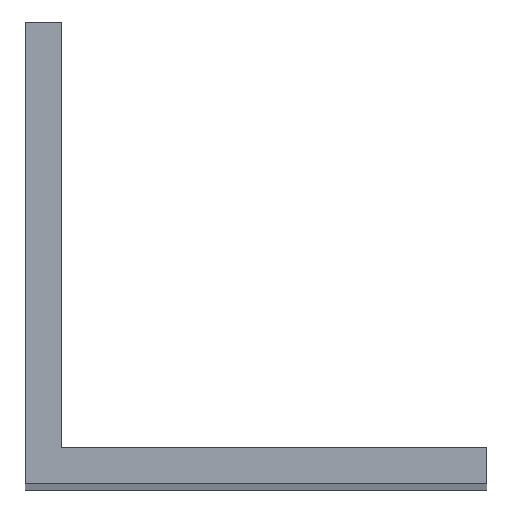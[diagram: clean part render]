
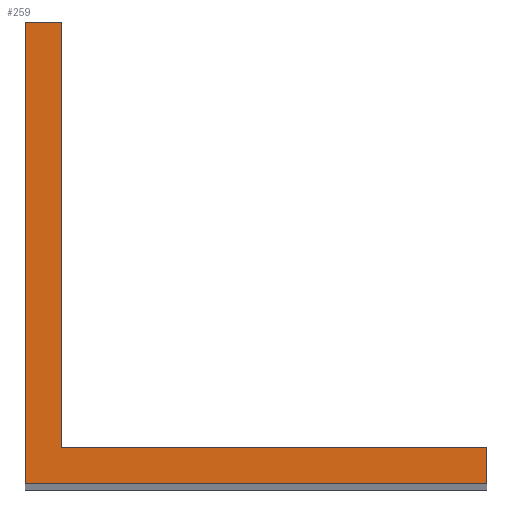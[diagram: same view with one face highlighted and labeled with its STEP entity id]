
A CAD part, top view. The second image highlights one B-rep face of the part: STEP entity #259.
In plain terms, the highlighted planar face has unit normal (0, 0, 1).
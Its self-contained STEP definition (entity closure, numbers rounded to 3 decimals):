
#6 = CARTESIAN_POINT ( 'NONE',  ( 0., 38., 150. ) ) ;
#10 = EDGE_CURVE ( 'NONE', #142, #25, #301, .T. ) ;
#20 = LINE ( 'NONE', #168, #188 ) ;
#23 = VECTOR ( 'NONE', #205, 1000. ) ;
#25 = VERTEX_POINT ( 'NONE', #28 ) ;
#28 = CARTESIAN_POINT ( 'NONE',  ( 3., 3., 150. ) ) ;
#32 = EDGE_LOOP ( 'NONE', ( #275, #83, #109, #49, #101, #151 ) ) ;
#38 = VECTOR ( 'NONE', #39, 1000. ) ;
#39 = DIRECTION ( 'NONE',  ( 0., 1., 0. ) ) ;
#43 = EDGE_CURVE ( 'NONE', #268, #284, #20, .T. ) ;
#44 = VECTOR ( 'NONE', #155, 1000. ) ;
#49 = ORIENTED_EDGE ( 'NONE', *, *, #68, .T. ) ;
#54 = LINE ( 'NONE', #176, #38 ) ;
#55 = VERTEX_POINT ( 'NONE', #86 ) ;
#62 = VECTOR ( 'NONE', #247, 1000. ) ;
#63 = DIRECTION ( 'NONE',  ( -1., 0., 0. ) ) ;
#66 = VERTEX_POINT ( 'NONE', #128 ) ;
#68 = EDGE_CURVE ( 'NONE', #25, #55, #197, .T. ) ;
#83 = ORIENTED_EDGE ( 'NONE', *, *, #192, .T. ) ;
#86 = CARTESIAN_POINT ( 'NONE',  ( 3., 38., 150. ) ) ;
#89 = CARTESIAN_POINT ( 'NONE',  ( 0., 0., 150. ) ) ;
#92 = EDGE_CURVE ( 'NONE', #284, #66, #262, .T. ) ;
#101 = ORIENTED_EDGE ( 'NONE', *, *, #281, .T. ) ;
#109 = ORIENTED_EDGE ( 'NONE', *, *, #10, .T. ) ;
#128 = CARTESIAN_POINT ( 'NONE',  ( 38., 0., 150. ) ) ;
#142 = VERTEX_POINT ( 'NONE', #164 ) ;
#151 = ORIENTED_EDGE ( 'NONE', *, *, #43, .T. ) ;
#155 = DIRECTION ( 'NONE',  ( -1., 0., 0. ) ) ;
#161 = DIRECTION ( 'NONE',  ( 0., 1., 0. ) ) ;
#164 = CARTESIAN_POINT ( 'NONE',  ( 38., 3., 150. ) ) ;
#168 = CARTESIAN_POINT ( 'NONE',  ( 0., 0., 150. ) ) ;
#176 = CARTESIAN_POINT ( 'NONE',  ( 38., 3., 150. ) ) ;
#179 = CARTESIAN_POINT ( 'NONE',  ( 38., 0., 150. ) ) ;
#188 = VECTOR ( 'NONE', #204, 1000. ) ;
#192 = EDGE_CURVE ( 'NONE', #66, #142, #54, .T. ) ;
#197 = LINE ( 'NONE', #227, #252 ) ;
#204 = DIRECTION ( 'NONE',  ( 0., -1., 0. ) ) ;
#205 = DIRECTION ( 'NONE',  ( -1., 0., 0. ) ) ;
#227 = CARTESIAN_POINT ( 'NONE',  ( 3., 38., 150. ) ) ;
#244 = CARTESIAN_POINT ( 'NONE',  ( 0., 38., 150. ) ) ;
#247 = DIRECTION ( 'NONE',  ( 1., 0., 0. ) ) ;
#248 = DIRECTION ( 'NONE',  ( 0., 0., -1. ) ) ;
#252 = VECTOR ( 'NONE', #161, 1000. ) ;
#254 = CARTESIAN_POINT ( 'NONE',  ( 3., 3., 150. ) ) ;
#259 = ADVANCED_FACE ( 'NONE', ( #296 ), #288, .F. ) ;
#262 = LINE ( 'NONE', #179, #62 ) ;
#267 = AXIS2_PLACEMENT_3D ( 'NONE', #89, #248, #63 ) ;
#268 = VERTEX_POINT ( 'NONE', #244 ) ;
#275 = ORIENTED_EDGE ( 'NONE', *, *, #92, .T. ) ;
#281 = EDGE_CURVE ( 'NONE', #55, #268, #283, .T. ) ;
#283 = LINE ( 'NONE', #6, #23 ) ;
#284 = VERTEX_POINT ( 'NONE', #286 ) ;
#286 = CARTESIAN_POINT ( 'NONE',  ( 0., 0., 150. ) ) ;
#288 = PLANE ( 'NONE',  #267 ) ;
#296 = FACE_OUTER_BOUND ( 'NONE', #32, .T. ) ;
#301 = LINE ( 'NONE', #254, #44 ) ;
